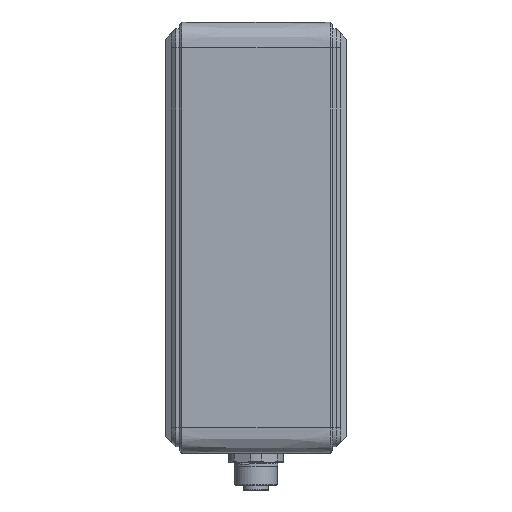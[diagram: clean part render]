
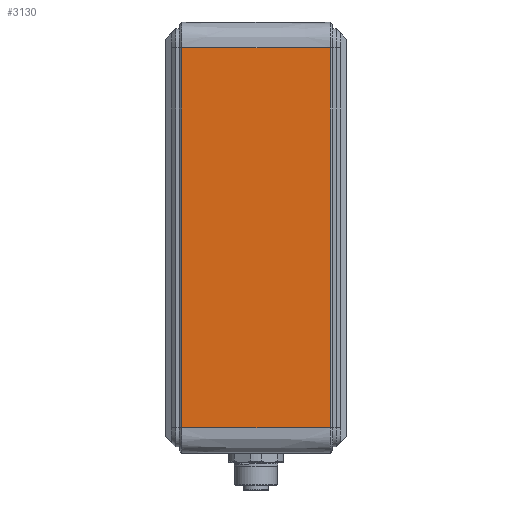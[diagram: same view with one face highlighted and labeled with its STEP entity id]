
A CAD part, left-side view. The second image highlights one B-rep face of the part: STEP entity #3130.
In plain terms, the highlighted planar face has unit normal (-1, 0, 0).
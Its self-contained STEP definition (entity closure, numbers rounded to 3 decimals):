
#3130=ADVANCED_FACE('',(#3806),#13190,.T.);
#3806=FACE_OUTER_BOUND('',#4533,.T.);
#4533=EDGE_LOOP('',(#6147,#6148,#6149,#6150));
#6147=ORIENTED_EDGE('',*,*,#9012,.F.);
#6148=ORIENTED_EDGE('',*,*,#9013,.F.);
#6149=ORIENTED_EDGE('',*,*,#9014,.F.);
#6150=ORIENTED_EDGE('',*,*,#9011,.F.);
#9011=EDGE_CURVE('',#12255,#12256,#10428,.T.);
#9012=EDGE_CURVE('',#12257,#12255,#10429,.T.);
#9013=EDGE_CURVE('',#12258,#12257,#10430,.T.);
#9014=EDGE_CURVE('',#12256,#12258,#10431,.T.);
#10428=B_SPLINE_CURVE_WITH_KNOTS('',3,(#29456,#29457,#29458,#29459),
 .UNSPECIFIED.,.F.,.F.,(4,4),(-46.4,0.),.UNSPECIFIED.);
#10429=B_SPLINE_CURVE_WITH_KNOTS('',1,(#29460,#29461),.UNSPECIFIED.,.F.,
 .F.,(2,2),(-119.,0.),.UNSPECIFIED.);
#10430=B_SPLINE_CURVE_WITH_KNOTS('',3,(#29462,#29463,#29464,#29465),
 .UNSPECIFIED.,.F.,.F.,(4,4),(-46.4,0.),.UNSPECIFIED.);
#10431=B_SPLINE_CURVE_WITH_KNOTS('',1,(#29466,#29467),.UNSPECIFIED.,.F.,
 .F.,(2,2),(-119.,0.),.UNSPECIFIED.);
#12255=VERTEX_POINT('',#25661);
#12256=VERTEX_POINT('',#25662);
#12257=VERTEX_POINT('',#25663);
#12258=VERTEX_POINT('',#25664);
#13190=PLANE('',#13693);
#13693=AXIS2_PLACEMENT_3D('',#17639,#14196,$);
#14196=DIRECTION('',(-1.,0.,0.));
#17639=CARTESIAN_POINT('',(-110.,-1.34,71.4));
#25661=CARTESIAN_POINT('',(-110.,3.3,-59.5));
#25662=CARTESIAN_POINT('',(-110.,49.7,-59.5));
#25663=CARTESIAN_POINT('',(-110.,3.3,59.5));
#25664=CARTESIAN_POINT('',(-110.,49.7,59.5));
#29456=CARTESIAN_POINT('',(-110.,3.3,-59.5));
#29457=CARTESIAN_POINT('',(-110.,18.767,-59.5));
#29458=CARTESIAN_POINT('',(-110.,34.233,-59.5));
#29459=CARTESIAN_POINT('',(-110.,49.7,-59.5));
#29460=CARTESIAN_POINT('',(-110.,3.3,59.5));
#29461=CARTESIAN_POINT('',(-110.,3.3,-59.5));
#29462=CARTESIAN_POINT('',(-110.,49.7,59.5));
#29463=CARTESIAN_POINT('',(-110.,34.233,59.5));
#29464=CARTESIAN_POINT('',(-110.,18.767,59.5));
#29465=CARTESIAN_POINT('',(-110.,3.3,59.5));
#29466=CARTESIAN_POINT('',(-110.,49.7,-59.5));
#29467=CARTESIAN_POINT('',(-110.,49.7,59.5));
